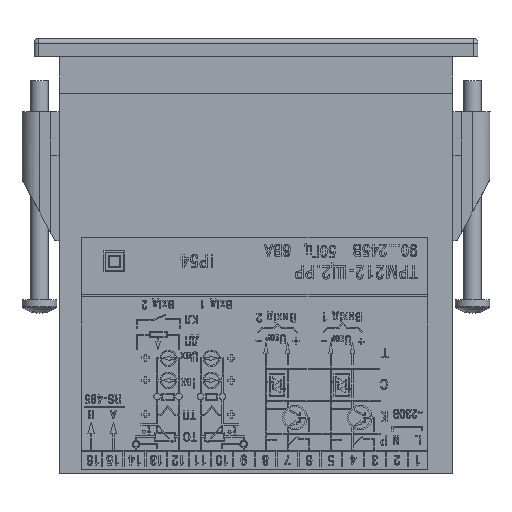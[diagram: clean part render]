
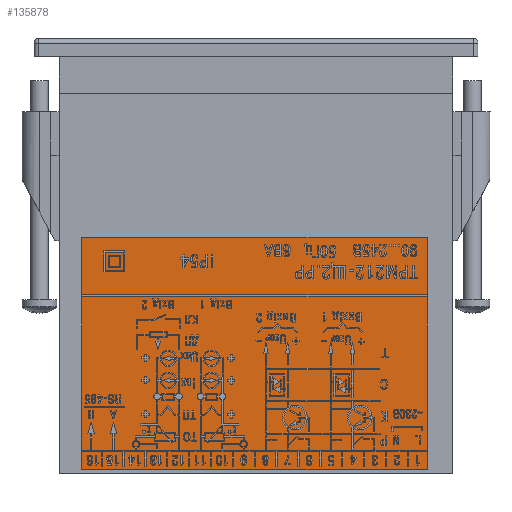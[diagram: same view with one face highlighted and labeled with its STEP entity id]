
A CAD part, front view. The second image highlights one B-rep face of the part: STEP entity #135878.
In plain terms, the highlighted planar face has unit normal (0, -1, 0).
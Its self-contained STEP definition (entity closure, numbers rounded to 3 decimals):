
#3715 = EDGE_CURVE ( 'NONE', #47409, #95854, #199594, .T. ) ;
#19385 = LINE ( 'NONE', #73569, #130959 ) ;
#28788 = CARTESIAN_POINT ( 'NONE',  ( 39.138, -20.6, -45.5 ) ) ;
#33165 = AXIS2_PLACEMENT_3D ( 'NONE', #60194, #113413, #47998 ) ;
#47409 = VERTEX_POINT ( 'NONE', #207156 ) ;
#47998 = DIRECTION ( 'NONE',  ( 0., 0., -1. ) ) ;
#49620 = CARTESIAN_POINT ( 'NONE',  ( -39.862, -20.6, -98.5 ) ) ;
#52994 = EDGE_CURVE ( 'NONE', #95854, #101549, #19385, .T. ) ;
#53494 = VERTEX_POINT ( 'NONE', #198197 ) ;
#60194 = CARTESIAN_POINT ( 'NONE',  ( 0., -20.6, 0. ) ) ;
#73569 = CARTESIAN_POINT ( 'NONE',  ( -39.862, -20.6, -45.5 ) ) ;
#75759 = DIRECTION ( 'NONE',  ( -1., 0., 0. ) ) ;
#76860 = PLANE ( 'NONE',  #33165 ) ;
#91556 = DIRECTION ( 'NONE',  ( 0., 0., -1. ) ) ;
#95854 = VERTEX_POINT ( 'NONE', #127418 ) ;
#101549 = VERTEX_POINT ( 'NONE', #108096 ) ;
#108096 = CARTESIAN_POINT ( 'NONE',  ( -39.862, -20.6, -45.5 ) ) ;
#110188 = FACE_OUTER_BOUND ( 'NONE', #178932, .T. ) ;
#113413 = DIRECTION ( 'NONE',  ( 0., -1., 0. ) ) ;
#119874 = ORIENTED_EDGE ( 'NONE', *, *, #3715, .T. ) ;
#121593 = DIRECTION ( 'NONE',  ( 1., 0., 0. ) ) ;
#127418 = CARTESIAN_POINT ( 'NONE',  ( 39.138, -20.6, -45.5 ) ) ;
#130959 = VECTOR ( 'NONE', #75759, 1000. ) ;
#135549 = ORIENTED_EDGE ( 'NONE', *, *, #178621, .T. ) ;
#135604 = ORIENTED_EDGE ( 'NONE', *, *, #52994, .T. ) ;
#135878 = ADVANCED_FACE ( 'NONE', ( #110188 ), #76860, .T. ) ;
#143669 = LINE ( 'NONE', #211244, #191828 ) ;
#152752 = EDGE_CURVE ( 'NONE', #53494, #47409, #204874, .T. ) ;
#154694 = ORIENTED_EDGE ( 'NONE', *, *, #152752, .T. ) ;
#178621 = EDGE_CURVE ( 'NONE', #101549, #53494, #143669, .T. ) ;
#178932 = EDGE_LOOP ( 'NONE', ( #119874, #135604, #135549, #154694 ) ) ;
#179834 = VECTOR ( 'NONE', #197395, 1000. ) ;
#191828 = VECTOR ( 'NONE', #91556, 1000. ) ;
#197395 = DIRECTION ( 'NONE',  ( 0., 0., 1. ) ) ;
#198197 = CARTESIAN_POINT ( 'NONE',  ( -39.862, -20.6, -98.5 ) ) ;
#199594 = LINE ( 'NONE', #28788, #179834 ) ;
#204874 = LINE ( 'NONE', #49620, #209885 ) ;
#207156 = CARTESIAN_POINT ( 'NONE',  ( 39.138, -20.6, -98.5 ) ) ;
#209885 = VECTOR ( 'NONE', #121593, 1000. ) ;
#211244 = CARTESIAN_POINT ( 'NONE',  ( -39.862, -20.6, -45.5 ) ) ;
